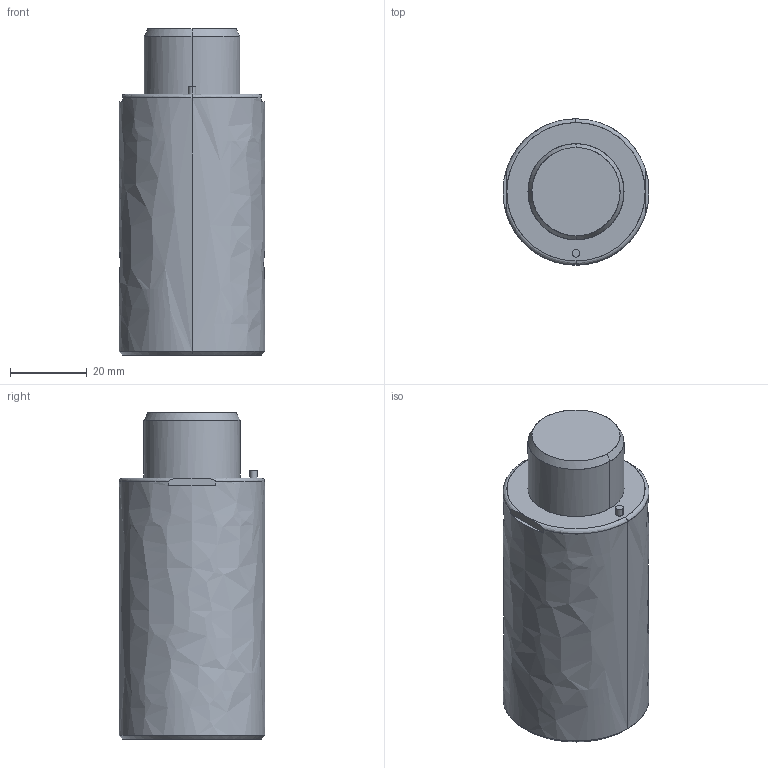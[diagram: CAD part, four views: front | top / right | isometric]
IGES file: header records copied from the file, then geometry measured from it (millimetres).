
Global section: file name: E:\UnigraphicsGraphicData\MISUMI_PRESS-PARTS\IGES\3d_gsx38-15_03990_r00.igs; native system: NX V5.0; preprocessor: UGS NX IGES V5.0; author: MISUMI; date: 20110105.160824; units: millimetre
Bounding box: 38 x 38 x 85 mm (x, y, z)
Surface area: 12842.3 mm2 (no closed solid volume)
Topology: 0 solids, 0 shells, 59 faces, 414 edges, 406 vertices
Faces by surface type: bspline 59
